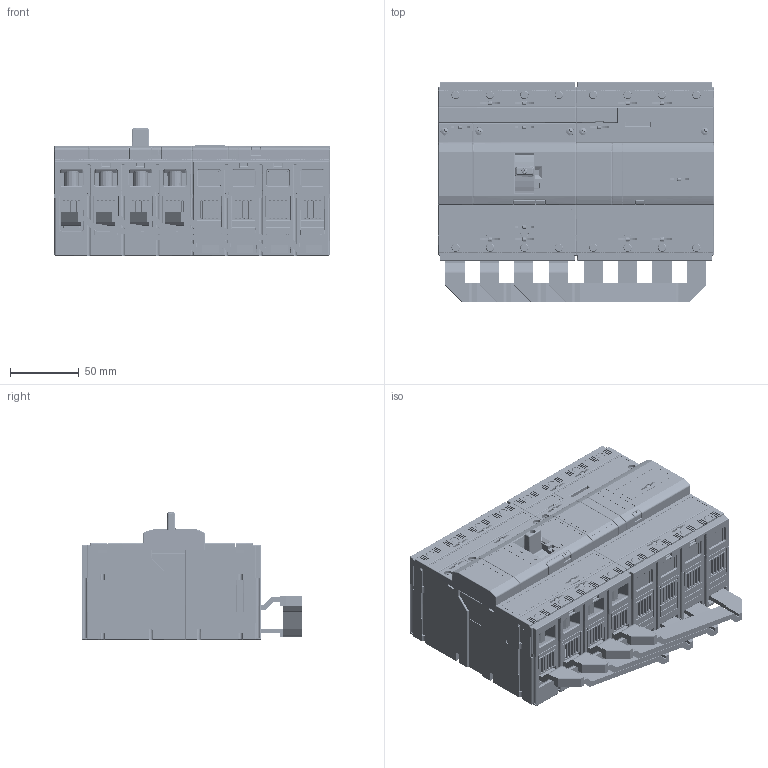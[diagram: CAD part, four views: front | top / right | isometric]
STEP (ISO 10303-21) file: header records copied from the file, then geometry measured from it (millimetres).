
FILE_DESCRIPTION (( 'STEP AP214' ), '1' );
FILE_NAME ('BC160NT405_406__RCD-BC4_fin2.step', '2013-06-19T09:14:40', ( 'Siemens' ), ( 'Siemens' ), 'SwSTEP 2.0', 'SolidWorks 2011', '' );
FILE_SCHEMA (( 'AUTOMOTIVE_DESIGN' ));
Length unit declared in the file: millimetre
Products named in the file (1): BC160NT405_406__RCD-BC4_fin2
Bounding box: 200 x 160 x 92.5 mm (x, y, z)
Volume: 1730109.5 mm3; surface area: 349068.2 mm2
Topology: 21 solids, 24 shells, 11999 faces, 32756 edges, 20841 vertices
Faces by surface type: plane 6424, cylinder 3428, bspline 1113, cone 842, torus 192
Entity records: 560661 total; most frequent: CARTESIAN_POINT 140443, ORIENTED_EDGE 65282, DIRECTION 52710, EDGE_CURVE 32641, VECTOR 20964, LINE 20964, VERTEX_POINT 20841, AXIS2_PLACEMENT_3D 15873
